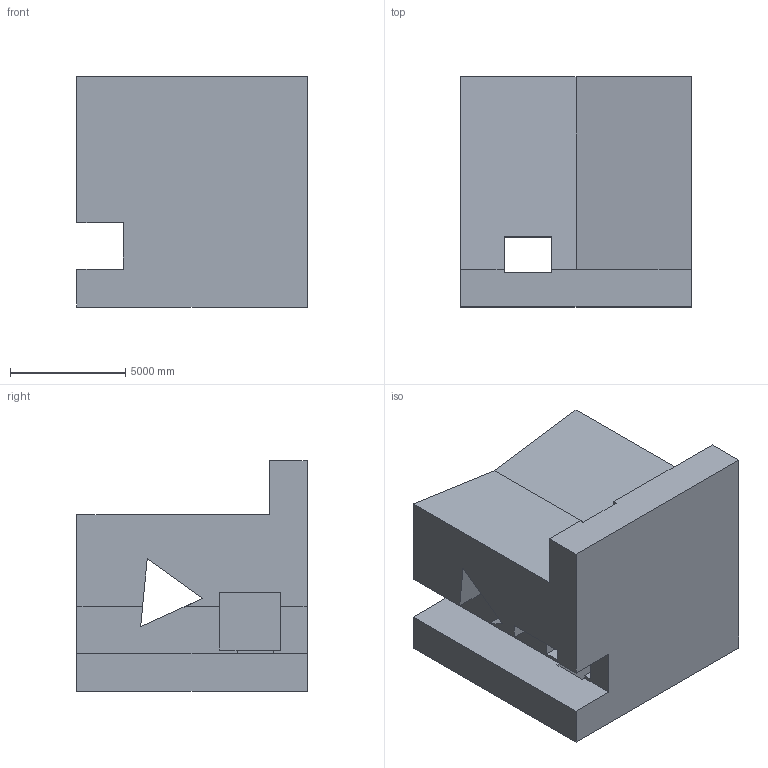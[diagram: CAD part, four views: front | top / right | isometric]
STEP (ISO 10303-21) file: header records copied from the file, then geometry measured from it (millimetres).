
FILE_DESCRIPTION (( 'STEP AP203' ), '1' );
FILE_NAME ('1488.STEP', '2022-08-18T14:46:59', ( 'user' ), ( '' ), 'SwSTEP 2.0', 'SolidWorks 2021', '' );
FILE_SCHEMA (( 'CONFIG_CONTROL_DESIGN' ));
Length unit declared in the file: centimetre
Products named in the file (1): 1488
Bounding box: 10000 x 10000 x 10000 mm (x, y, z)
Volume: 646807720480.6 mm3; surface area: 737852555.9 mm2
Topology: 1 solids, 1 shells, 33 faces, 102 edges, 68 vertices
Faces by surface type: plane 33
Entity records: 1205 total; most frequent: CARTESIAN_POINT 204, ORIENTED_EDGE 204, DIRECTION 170, VECTOR 102, LINE 102, EDGE_CURVE 102, VERTEX_POINT 68, EDGE_LOOP 36
